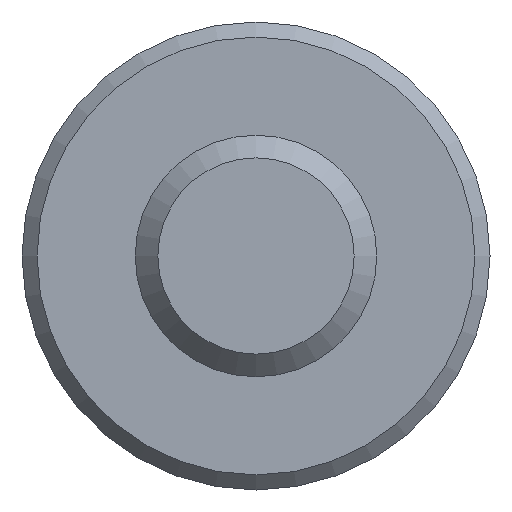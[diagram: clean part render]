
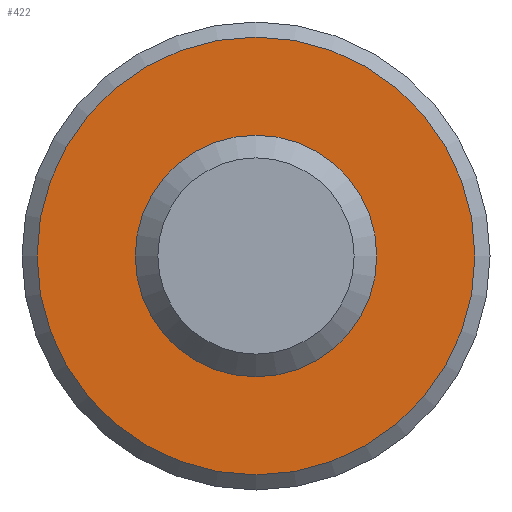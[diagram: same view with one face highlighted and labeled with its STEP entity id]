
A CAD part, front view. The second image highlights one B-rep face of the part: STEP entity #422.
In plain terms, the highlighted planar face has unit normal (0, -1, 0).
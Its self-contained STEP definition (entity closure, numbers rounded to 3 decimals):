
#9 = DIRECTION ( 'NONE',  ( 0., 0., 1. ) ) ;
#41 = AXIS2_PLACEMENT_3D ( 'NONE', #414, #183, #180 ) ;
#52 = EDGE_LOOP ( 'NONE', ( #442 ) ) ;
#109 = FACE_OUTER_BOUND ( 'NONE', #583, .T. ) ;
#128 = EDGE_CURVE ( 'NONE', #491, #491, #246, .T. ) ;
#153 = CIRCLE ( 'NONE', #41, 1.45 ) ;
#159 = CARTESIAN_POINT ( 'NONE',  ( 0., 10., 0. ) ) ;
#180 = DIRECTION ( 'NONE',  ( 0., 0., 1. ) ) ;
#183 = DIRECTION ( 'NONE',  ( 0., -1., 0. ) ) ;
#205 = DIRECTION ( 'NONE',  ( 0., -1., 0. ) ) ;
#233 = PLANE ( 'NONE',  #253 ) ;
#241 = FACE_BOUND ( 'NONE', #52, .T. ) ;
#246 = CIRCLE ( 'NONE', #385, 0.8 ) ;
#253 = AXIS2_PLACEMENT_3D ( 'NONE', #276, #280, #9 ) ;
#276 = CARTESIAN_POINT ( 'NONE',  ( -1.55, 10., 0. ) ) ;
#280 = DIRECTION ( 'NONE',  ( 0., 1., 0. ) ) ;
#299 = DIRECTION ( 'NONE',  ( 0., 0., -1. ) ) ;
#385 = AXIS2_PLACEMENT_3D ( 'NONE', #159, #205, #299 ) ;
#413 = EDGE_CURVE ( 'NONE', #572, #572, #153, .T. ) ;
#414 = CARTESIAN_POINT ( 'NONE',  ( 0., 10., 0. ) ) ;
#422 = ADVANCED_FACE ( 'NONE', ( #109, #241 ), #233, .F. ) ;
#442 = ORIENTED_EDGE ( 'NONE', *, *, #128, .F. ) ;
#486 = CARTESIAN_POINT ( 'NONE',  ( 0., 10., 1.45 ) ) ;
#491 = VERTEX_POINT ( 'NONE', #492 ) ;
#492 = CARTESIAN_POINT ( 'NONE',  ( 0., 10., -0.8 ) ) ;
#558 = ORIENTED_EDGE ( 'NONE', *, *, #413, .T. ) ;
#572 = VERTEX_POINT ( 'NONE', #486 ) ;
#583 = EDGE_LOOP ( 'NONE', ( #558 ) ) ;
